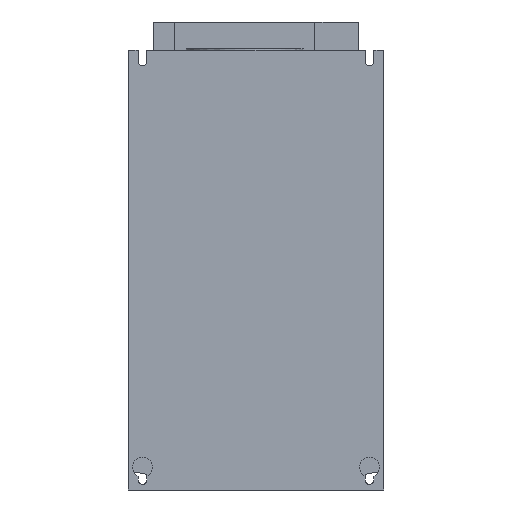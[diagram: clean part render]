
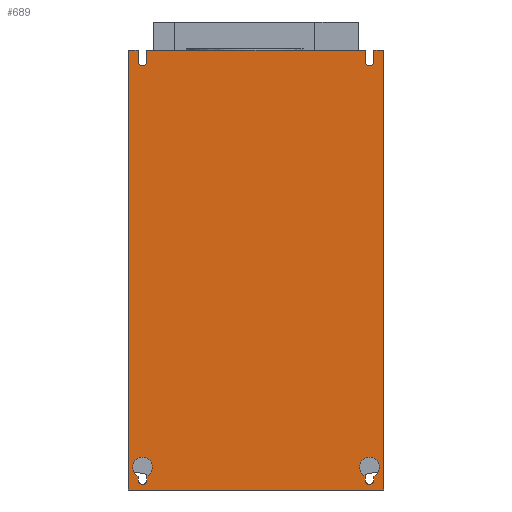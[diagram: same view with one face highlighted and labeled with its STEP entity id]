
A CAD part, front view. The second image highlights one B-rep face of the part: STEP entity #689.
In plain terms, the highlighted planar face has unit normal (0, -1, 0).
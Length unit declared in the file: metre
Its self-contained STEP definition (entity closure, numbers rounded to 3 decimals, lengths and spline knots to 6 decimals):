
#689=ADVANCED_FACE('',(#3981,#3982,#3983),#3984,.F.);
#3981=FACE_OUTER_BOUND('',#10819,.T.);
#3982=FACE_BOUND('',#10820,.T.);
#3983=FACE_BOUND('',#10821,.T.);
#3984=PLANE('',#10822);
#10819=EDGE_LOOP('',(#18907,#18908,#18909,#18910,#18911,#18912,#18913,#18914,#18915,#18916,#18917,#18918));
#10820=EDGE_LOOP('',(#18919,#18920,#18921,#18922,#18923,#18924));
#10821=EDGE_LOOP('',(#18925,#18926,#18927,#18928,#18929,#18930));
#10822=AXIS2_PLACEMENT_3D('',#18931,#18932,#18933);
#18907=ORIENTED_EDGE('',*,*,#45904,.T.);
#18908=ORIENTED_EDGE('',*,*,#45905,.T.);
#18909=ORIENTED_EDGE('',*,*,#45906,.T.);
#18910=ORIENTED_EDGE('',*,*,#45907,.F.);
#18911=ORIENTED_EDGE('',*,*,#45908,.T.);
#18912=ORIENTED_EDGE('',*,*,#45909,.T.);
#18913=ORIENTED_EDGE('',*,*,#45910,.T.);
#18914=ORIENTED_EDGE('',*,*,#45911,.F.);
#18915=ORIENTED_EDGE('',*,*,#45912,.T.);
#18916=ORIENTED_EDGE('',*,*,#45913,.F.);
#18917=ORIENTED_EDGE('',*,*,#45914,.T.);
#18918=ORIENTED_EDGE('',*,*,#45915,.T.);
#18919=ORIENTED_EDGE('',*,*,#45895,.T.);
#18920=ORIENTED_EDGE('',*,*,#45902,.T.);
#18921=ORIENTED_EDGE('',*,*,#45901,.T.);
#18922=ORIENTED_EDGE('',*,*,#45916,.F.);
#18923=ORIENTED_EDGE('',*,*,#45917,.T.);
#18924=ORIENTED_EDGE('',*,*,#45918,.F.);
#18925=ORIENTED_EDGE('',*,*,#45919,.T.);
#18926=ORIENTED_EDGE('',*,*,#45920,.F.);
#18927=ORIENTED_EDGE('',*,*,#45734,.T.);
#18928=ORIENTED_EDGE('',*,*,#45921,.T.);
#18929=ORIENTED_EDGE('',*,*,#45740,.T.);
#18930=ORIENTED_EDGE('',*,*,#45922,.F.);
#18931=CARTESIAN_POINT('',(0.0212,0.0,0.0));
#18932=DIRECTION('',(0.0,1.0,0.0));
#18933=DIRECTION('',(1.0,0.0,-0.0));
#45734=EDGE_CURVE('',#54698,#54695,#54699,.T.);
#45740=EDGE_CURVE('',#54704,#54708,#54710,.T.);
#45895=EDGE_CURVE('',#55018,#55015,#55019,.T.);
#45901=EDGE_CURVE('',#55024,#55028,#55030,.T.);
#45902=EDGE_CURVE('',#55015,#55024,#55031,.T.);
#45904=EDGE_CURVE('',#55033,#55034,#55035,.T.);
#45905=EDGE_CURVE('',#55034,#55036,#55037,.T.);
#45906=EDGE_CURVE('',#55036,#55038,#55039,.T.);
#45907=EDGE_CURVE('',#55040,#55038,#55041,.T.);
#45908=EDGE_CURVE('',#55040,#55042,#55043,.T.);
#45909=EDGE_CURVE('',#55042,#55044,#55045,.T.);
#45910=EDGE_CURVE('',#55044,#55046,#55047,.T.);
#45911=EDGE_CURVE('',#55048,#55046,#55049,.T.);
#45912=EDGE_CURVE('',#55048,#55050,#55051,.T.);
#45913=EDGE_CURVE('',#55052,#55050,#55053,.T.);
#45914=EDGE_CURVE('',#55052,#55054,#55055,.T.);
#45915=EDGE_CURVE('',#55054,#55033,#55056,.T.);
#45916=EDGE_CURVE('',#55057,#55028,#55058,.T.);
#45917=EDGE_CURVE('',#55057,#55059,#55060,.T.);
#45918=EDGE_CURVE('',#55018,#55059,#55061,.T.);
#45919=EDGE_CURVE('',#55062,#55063,#55064,.T.);
#45920=EDGE_CURVE('',#54698,#55063,#55065,.T.);
#45921=EDGE_CURVE('',#54695,#54704,#55066,.T.);
#45922=EDGE_CURVE('',#55062,#54708,#55067,.T.);
#54695=VERTEX_POINT('',#69344);
#54698=VERTEX_POINT('',#69348);
#54699=CIRCLE('',#69349,0.007);
#54704=VERTEX_POINT('',#69355);
#54708=VERTEX_POINT('',#69360);
#54710=CIRCLE('',#69363,0.007);
#55015=VERTEX_POINT('',#69742);
#55018=VERTEX_POINT('',#69746);
#55019=CIRCLE('',#69747,0.007);
#55024=VERTEX_POINT('',#69753);
#55028=VERTEX_POINT('',#69758);
#55030=CIRCLE('',#69761,0.007);
#55031=CIRCLE('',#69762,0.007);
#55033=VERTEX_POINT('',#69764);
#55034=VERTEX_POINT('',#69765);
#55035=LINE('',#69766,#69767);
#55036=VERTEX_POINT('',#69768);
#55037=LINE('',#69769,#69770);
#55038=VERTEX_POINT('',#69771);
#55039=LINE('',#69772,#69773);
#55040=VERTEX_POINT('',#69774);
#55041=LINE('',#69775,#69776);
#55042=VERTEX_POINT('',#69777);
#55043=CIRCLE('',#69778,0.003);
#55044=VERTEX_POINT('',#69779);
#55045=LINE('',#69780,#69781);
#55046=VERTEX_POINT('',#69782);
#55047=LINE('',#69783,#69784);
#55048=VERTEX_POINT('',#69785);
#55049=LINE('',#69786,#69787);
#55050=VERTEX_POINT('',#69788);
#55051=CIRCLE('',#69789,0.003);
#55052=VERTEX_POINT('',#69790);
#55053=LINE('',#69791,#69792);
#55054=VERTEX_POINT('',#69793);
#55055=LINE('',#69794,#69795);
#55056=LINE('',#69796,#69797);
#55057=VERTEX_POINT('',#69798);
#55058=LINE('',#69799,#69800);
#55059=VERTEX_POINT('',#69801);
#55060=CIRCLE('',#69802,0.003);
#55061=LINE('',#69803,#69804);
#55062=VERTEX_POINT('',#69805);
#55063=VERTEX_POINT('',#69806);
#55064=CIRCLE('',#69807,0.003);
#55065=LINE('',#69808,#69809);
#55066=CIRCLE('',#69810,0.007);
#55067=LINE('',#69811,#69812);
#69344=CARTESIAN_POINT('',(0.163,0.0,-0.294));
#69348=CARTESIAN_POINT('',(0.167,0.0,-0.300325));
#69349=AXIS2_PLACEMENT_3D('',#92088,#92089,#92090);
#69355=CARTESIAN_POINT('',(0.177,0.0,-0.294));
#69360=CARTESIAN_POINT('',(0.173,0.0,-0.300325));
#69363=AXIS2_PLACEMENT_3D('',#92100,#92101,#92102);
#69742=CARTESIAN_POINT('',(0.003,0.0,-0.294));
#69746=CARTESIAN_POINT('',(0.007,0.0,-0.300325));
#69747=AXIS2_PLACEMENT_3D('',#92415,#92416,#92417);
#69753=CARTESIAN_POINT('',(0.017,0.0,-0.294));
#69758=CARTESIAN_POINT('',(0.013,0.0,-0.300325));
#69761=AXIS2_PLACEMENT_3D('',#92427,#92428,#92429);
#69762=AXIS2_PLACEMENT_3D('',#92430,#92431,#92432);
#69764=CARTESIAN_POINT('',(0.0,0.0,-0.31));
#69765=CARTESIAN_POINT('',(0.18,0.0,-0.31));
#69766=CARTESIAN_POINT('',(0.0,0.0,-0.31));
#69767=VECTOR('',#92436,0.18);
#69768=CARTESIAN_POINT('',(0.18,0.0,0.0));
#69769=CARTESIAN_POINT('',(0.18,0.0,-0.31));
#69770=VECTOR('',#92437,0.31);
#69771=CARTESIAN_POINT('',(0.173,0.0,0.0));
#69772=CARTESIAN_POINT('',(0.18,0.0,0.0));
#69773=VECTOR('',#92438,0.007);
#69774=CARTESIAN_POINT('',(0.173,0.0,-0.008));
#69775=CARTESIAN_POINT('',(0.173,0.0,-0.008));
#69776=VECTOR('',#92439,0.008);
#69777=CARTESIAN_POINT('',(0.167,0.0,-0.008));
#69778=AXIS2_PLACEMENT_3D('',#92440,#92441,#92442);
#69779=CARTESIAN_POINT('',(0.167,0.0,0.0));
#69780=CARTESIAN_POINT('',(0.167,0.0,-0.008));
#69781=VECTOR('',#92443,0.008);
#69782=CARTESIAN_POINT('',(0.013,0.0,0.0));
#69783=CARTESIAN_POINT('',(0.167,0.0,0.0));
#69784=VECTOR('',#92444,0.154);
#69785=CARTESIAN_POINT('',(0.013,0.0,-0.008));
#69786=CARTESIAN_POINT('',(0.013,0.0,-0.008));
#69787=VECTOR('',#92445,0.008);
#69788=CARTESIAN_POINT('',(0.007,0.0,-0.008));
#69789=AXIS2_PLACEMENT_3D('',#92446,#92447,#92448);
#69790=CARTESIAN_POINT('',(0.007,0.0,0.0));
#69791=CARTESIAN_POINT('',(0.007,0.0,0.0));
#69792=VECTOR('',#92449,0.008);
#69793=CARTESIAN_POINT('',(0.0,0.0,0.0));
#69794=CARTESIAN_POINT('',(0.007,0.0,0.0));
#69795=VECTOR('',#92450,0.007);
#69796=CARTESIAN_POINT('',(0.0,0.0,0.0));
#69797=VECTOR('',#92451,0.31);
#69798=CARTESIAN_POINT('',(0.013,0.0,-0.303));
#69799=CARTESIAN_POINT('',(0.013,0.0,-0.303));
#69800=VECTOR('',#92452,0.002675);
#69801=CARTESIAN_POINT('',(0.007,0.0,-0.303));
#69802=AXIS2_PLACEMENT_3D('',#92453,#92454,#92455);
#69803=CARTESIAN_POINT('',(0.007,0.0,-0.300325));
#69804=VECTOR('',#92456,0.002675);
#69805=CARTESIAN_POINT('',(0.173,0.0,-0.303));
#69806=CARTESIAN_POINT('',(0.167,0.0,-0.303));
#69807=AXIS2_PLACEMENT_3D('',#92457,#92458,#92459);
#69808=CARTESIAN_POINT('',(0.167,0.0,-0.300325));
#69809=VECTOR('',#92460,0.002675);
#69810=AXIS2_PLACEMENT_3D('',#92461,#92462,#92463);
#69811=CARTESIAN_POINT('',(0.173,0.0,-0.303));
#69812=VECTOR('',#92464,0.002675);
#92088=CARTESIAN_POINT('',(0.17,0.0,-0.294));
#92089=DIRECTION('',(-0.0,1.0,0.0));
#92090=DIRECTION('',(1.0,0.0,0.0));
#92100=CARTESIAN_POINT('',(0.17,0.0,-0.294));
#92101=DIRECTION('',(-0.0,1.0,0.0));
#92102=DIRECTION('',(1.0,0.0,0.0));
#92415=CARTESIAN_POINT('',(0.01,0.0,-0.294));
#92416=DIRECTION('',(-0.0,1.0,0.0));
#92417=DIRECTION('',(1.0,0.0,0.0));
#92427=CARTESIAN_POINT('',(0.01,0.0,-0.294));
#92428=DIRECTION('',(-0.0,1.0,0.0));
#92429=DIRECTION('',(1.0,0.0,0.0));
#92430=CARTESIAN_POINT('',(0.01,0.0,-0.294));
#92431=DIRECTION('',(-0.0,1.0,0.0));
#92432=DIRECTION('',(1.0,0.0,0.0));
#92436=DIRECTION('',(1.0,0.0,0.0));
#92437=DIRECTION('',(0.0,0.0,1.0));
#92438=DIRECTION('',(-1.0,0.0,0.0));
#92439=DIRECTION('',(0.0,0.0,1.0));
#92440=CARTESIAN_POINT('',(0.17,0.0,-0.008));
#92441=DIRECTION('',(-0.0,1.0,0.0));
#92442=DIRECTION('',(1.0,0.0,0.0));
#92443=DIRECTION('',(0.0,0.0,1.0));
#92444=DIRECTION('',(-1.0,0.0,0.0));
#92445=DIRECTION('',(0.0,0.0,1.0));
#92446=CARTESIAN_POINT('',(0.01,0.0,-0.008));
#92447=DIRECTION('',(-0.0,1.0,0.0));
#92448=DIRECTION('',(1.0,0.0,0.0));
#92449=DIRECTION('',(0.0,0.0,-1.0));
#92450=DIRECTION('',(-1.0,0.0,0.0));
#92451=DIRECTION('',(0.0,0.0,-1.0));
#92452=DIRECTION('',(0.0,0.0,1.0));
#92453=CARTESIAN_POINT('',(0.01,0.0,-0.303));
#92454=DIRECTION('',(-0.0,1.0,0.0));
#92455=DIRECTION('',(1.0,0.0,0.0));
#92456=DIRECTION('',(0.,0.0,-1.0));
#92457=CARTESIAN_POINT('',(0.17,0.0,-0.303));
#92458=DIRECTION('',(0.0,1.0,0.0));
#92459=DIRECTION('',(1.0,0.0,0.));
#92460=DIRECTION('',(0.,0.0,-1.0));
#92461=CARTESIAN_POINT('',(0.17,0.0,-0.294));
#92462=DIRECTION('',(-0.0,1.0,0.0));
#92463=DIRECTION('',(1.0,0.0,0.0));
#92464=DIRECTION('',(0.,0.0,1.0));
